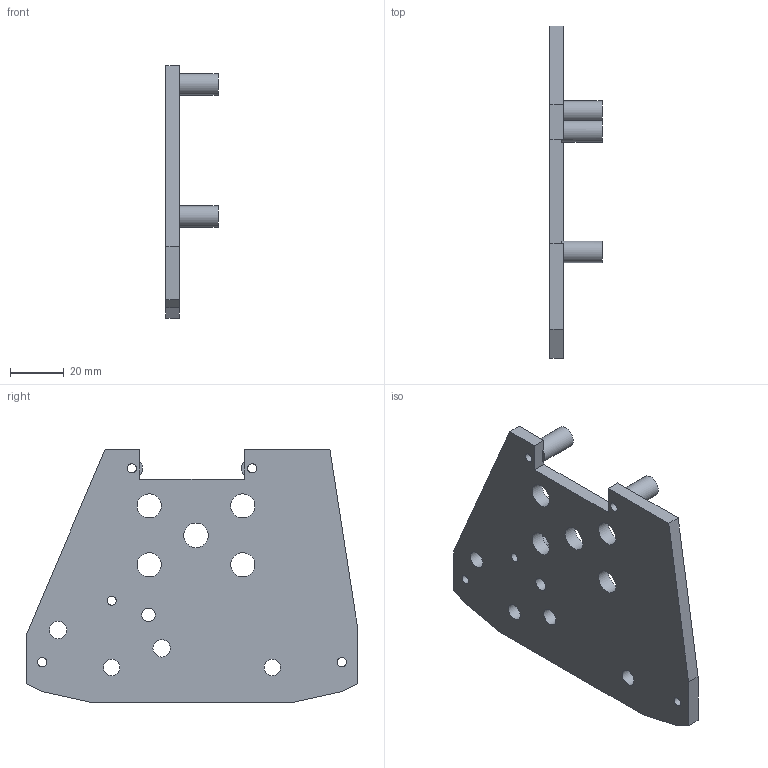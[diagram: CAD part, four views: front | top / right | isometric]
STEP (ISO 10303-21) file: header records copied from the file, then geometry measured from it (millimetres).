
FILE_DESCRIPTION(('Open CASCADE Model'),'2;1');
FILE_NAME('Open CASCADE Shape Model','2026-10-16T02:10:56',('Author'),( 'Open CASCADE'),'Open CASCADE STEP processor 7.9','Open CASCADE 7.9' ,'Unknown');
FILE_SCHEMA(('AUTOMOTIVE_DESIGN { 1 0 10303 214 1 1 1 1 }'));
Length unit declared in the file: millimetre
Products named in the file (1): Open CASCADE STEP translator 7.9 9
Bounding box: 19.5 x 124 x 94.36 mm (x, y, z)
Volume: 48014.1 mm3; surface area: 23585.8 mm2
Topology: 1 solids, 1 shells, 39 faces, 108 edges, 72 vertices
Faces by surface type: plane 21, cylinder 18
Full cylindrical faces by diameter (mm): 3.4 x5, 5.1 x1, 6.2 x2, 6.5 x2, 8 x3, 9 x4, 9.2 x1
Entity records: 2826 total; most frequent: CARTESIAN_POINT 652, DIRECTION 398, LINE 232, VECTOR 232, ORIENTED_EDGE 216, PCURVE 216, DEFINITIONAL_REPRESENTATION 216, EDGE_CURVE 108
